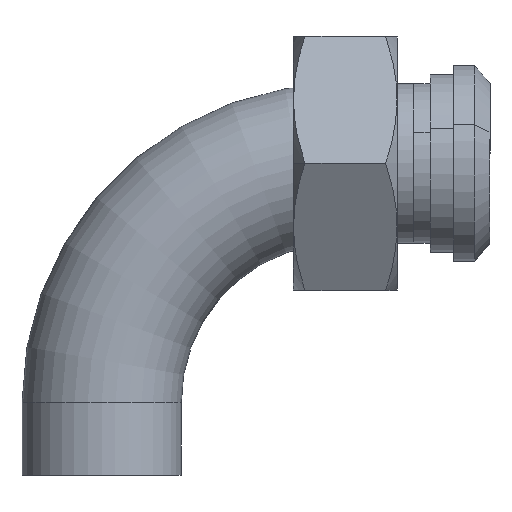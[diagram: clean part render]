
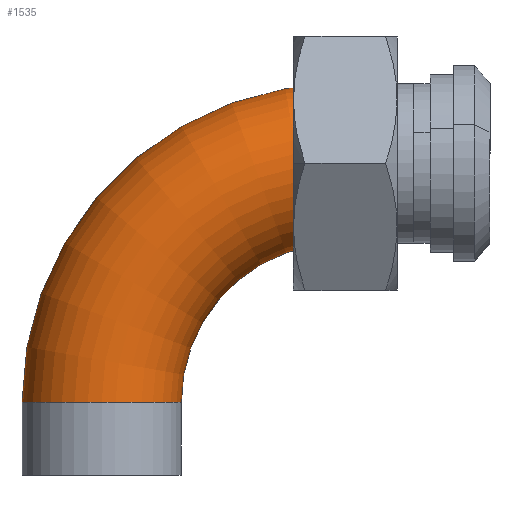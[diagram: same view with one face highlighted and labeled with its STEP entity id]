
A CAD part, top view. The second image highlights one B-rep face of the part: STEP entity #1535.
In plain terms, the highlighted toroidal (fillet/blend) face has major radius 57.15 mm and minor radius 19.05 mm.
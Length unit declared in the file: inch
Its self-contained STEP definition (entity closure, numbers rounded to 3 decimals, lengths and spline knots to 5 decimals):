
#58 = FACE_OUTER_BOUND ( 'NONE', #2910, .T. ) ;
#228 = CIRCLE ( 'NONE', #1515, 1.5 ) ;
#602 = CARTESIAN_POINT ( 'NONE',  ( 2.25, 0., 0. ) ) ;
#747 = VERTEX_POINT ( 'NONE', #1182 ) ;
#842 = DIRECTION ( 'NONE',  ( 0., 0., -1. ) ) ;
#874 = DIRECTION ( 'NONE',  ( 0., -1., 0. ) ) ;
#954 = CARTESIAN_POINT ( 'NONE',  ( 2.25, -2.25, 0. ) ) ;
#1031 = AXIS2_PLACEMENT_3D ( 'NONE', #1340, #3268, #1621 ) ;
#1033 = CARTESIAN_POINT ( 'NONE',  ( 0.75, -2.25, 0. ) ) ;
#1182 = CARTESIAN_POINT ( 'NONE',  ( 2.25, -0.75, 0. ) ) ;
#1340 = CARTESIAN_POINT ( 'NONE',  ( 0., -2.25, 0. ) ) ;
#1391 = CIRCLE ( 'NONE', #3560, 3. ) ;
#1505 = DIRECTION ( 'NONE',  ( 0., 0., -1. ) ) ;
#1515 = AXIS2_PLACEMENT_3D ( 'NONE', #3146, #1505, #3419 ) ;
#1521 = EDGE_CURVE ( 'NONE', #3394, #747, #228, .T. ) ;
#1535 = ADVANCED_FACE ( 'NONE', ( #58 ), #2180, .T. ) ;
#1549 = ORIENTED_EDGE ( 'NONE', *, *, #1521, .T. ) ;
#1621 = DIRECTION ( 'NONE',  ( 1., 0., 0. ) ) ;
#1667 = EDGE_CURVE ( 'NONE', #747, #3191, #3385, .T. ) ;
#1782 = DIRECTION ( 'NONE',  ( -1., 0., 0. ) ) ;
#2141 = EDGE_CURVE ( 'NONE', #2577, #3191, #1391, .T. ) ;
#2175 = CARTESIAN_POINT ( 'NONE',  ( -0.75, -2.25, 0. ) ) ;
#2180 = TOROIDAL_SURFACE ( 'NONE', #2251, 2.25, 0.75 ) ;
#2251 = AXIS2_PLACEMENT_3D ( 'NONE', #954, #2878, #1782 ) ;
#2253 = CIRCLE ( 'NONE', #1031, 0.75 ) ;
#2359 = CARTESIAN_POINT ( 'NONE',  ( 2.25, 0.75, 0. ) ) ;
#2476 = ORIENTED_EDGE ( 'NONE', *, *, #1667, .T. ) ;
#2490 = CARTESIAN_POINT ( 'NONE',  ( 2.25, -2.25, 0. ) ) ;
#2525 = DIRECTION ( 'NONE',  ( -1., 0., 0. ) ) ;
#2545 = EDGE_CURVE ( 'NONE', #3394, #2577, #2253, .T. ) ;
#2577 = VERTEX_POINT ( 'NONE', #2175 ) ;
#2616 = AXIS2_PLACEMENT_3D ( 'NONE', #602, #2525, #874 ) ;
#2630 = ORIENTED_EDGE ( 'NONE', *, *, #2141, .F. ) ;
#2761 = DIRECTION ( 'NONE',  ( -1., 0., 0. ) ) ;
#2878 = DIRECTION ( 'NONE',  ( 0., 0., -1. ) ) ;
#2910 = EDGE_LOOP ( 'NONE', ( #2630, #3131, #1549, #2476 ) ) ;
#3131 = ORIENTED_EDGE ( 'NONE', *, *, #2545, .F. ) ;
#3146 = CARTESIAN_POINT ( 'NONE',  ( 2.25, -2.25, 0. ) ) ;
#3191 = VERTEX_POINT ( 'NONE', #2359 ) ;
#3268 = DIRECTION ( 'NONE',  ( 0., -1., 0. ) ) ;
#3385 = CIRCLE ( 'NONE', #2616, 0.75 ) ;
#3394 = VERTEX_POINT ( 'NONE', #1033 ) ;
#3419 = DIRECTION ( 'NONE',  ( -1., 0., 0. ) ) ;
#3560 = AXIS2_PLACEMENT_3D ( 'NONE', #2490, #842, #2761 ) ;
